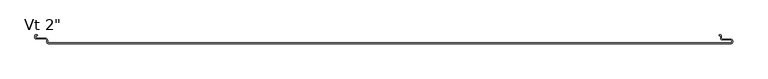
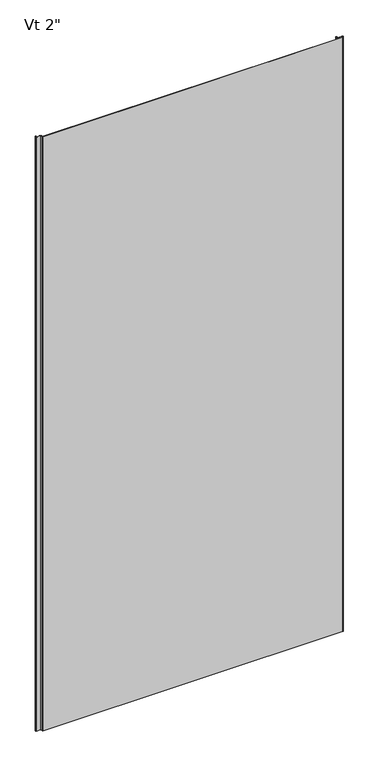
"""IFC4 building model written with IfcOpenShell, lengths in millimetres: plate geometry."""

from ifc_helpers import new_model, si_unit, frame, origin, place, context, project, spatial, polyline, circle_curve, source, transform, mapped, element, save
from ifc_brep_helpers import plane_surface, cylinder_surface, revolved_surface, advanced_brep


def plate_e84ce2d3(model_context):
    return source(origin(), model_context, "Body", "AdvancedBrep", [
        advanced_brep(
        [(-572.4123937, -47.8223811, 2400.0), (-572.4123937, -45.5308685, 2400.0), (-576.3897391, -41.5535232, 2400.0), (-591.9862514, -41.5535232, 2400.0), (-592.5741086, -40.965666, 2400.0), (-592.5741086, -37.8941346, 2400.0), (-591.9862374, -37.3062635, 2400.0), (-589.6312064, -37.3062635, 2400.0), (-589.6312064, -36.3062599, 2400.0), (-591.9862419, -36.3062599, 2400.0), (-593.5741185, -37.8941364, 2400.0), (-593.5741185, -40.9656851, 2400.0), (-591.9862419, -42.5535616, 2400.0), (-576.3898159, -42.5535616, 2400.0), (-573.4125474, -45.5308302, 2400.0), (-573.4125474, -47.822714, 2400.0), (-570.4352789, -50.7999825, 2400.0), (574.5475652, -50.8, 2400.0), (577.5248337, -47.8227315, 2400.0), (577.5248337, -46.7806329, 2400.0), (574.5475652, -43.8033644, 2400.0), (560.3591801, -43.8033644, 2400.0), (558.7713036, -42.2154878, 2400.0), (558.7713036, -37.8950697, 2400.0), (557.1304042, -36.3066023, 2400.0), (554.7857432, -36.3066023, 2400.0), (554.7857432, -37.3060472, 2400.0), (557.1628599, -37.3060472, 2400.0), (557.7713971, -37.8950842, 2400.0), (557.7713971, -42.2153166, 2400.0), (560.3590971, -44.8030166, 2400.0), (574.5482568, -44.8030166, 2400.0), (576.5262182, -46.780978, 2400.0), (576.5262182, -47.82341, 2400.0), (574.550337, -49.7992912, 2400.0), (-570.4354837, -49.7992912, 2400.0), (-572.4123937, -47.8223811, 0.0), (-570.4354837, -49.7992912, 0.0), (574.550337, -49.7992912, 0.0), (576.5262182, -47.82341, 0.0), (576.5262182, -46.780978, 0.0), (574.5482568, -44.8030166, 0.0), (560.3590971, -44.8030166, 0.0), (557.7713971, -42.2153166, 0.0), (557.7713971, -37.8950842, 0.0), (557.1628599, -37.3060472, 0.0), (554.7857432, -37.3060472, 0.0), (554.7857432, -36.3066023, 0.0), (557.1304042, -36.3066023, 0.0), (558.7713036, -37.8950697, 0.0), (558.7713036, -42.2154878, 0.0), (560.3591801, -43.8033644, 0.0), (574.5475652, -43.8033644, 0.0), (577.5248337, -46.7806329, 0.0), (577.5248337, -47.8227315, 0.0), (574.5475652, -50.8, 0.0), (-570.4352789, -50.8, 0.0), (-573.4125474, -47.822714, 0.0), (-573.4125474, -45.5308302, 0.0), (-576.3898159, -42.5535616, 0.0), (-591.9862419, -42.5535616, 0.0), (-593.5741185, -40.9656851, 0.0), (-593.5741185, -37.8941364, 0.0), (-591.9862419, -36.3062599, 0.0), (-589.6312064, -36.3062599, 0.0), (-589.6312064, -37.3062635, 0.0), (-591.9862374, -37.3062635, 0.0), (-592.5741086, -37.8941346, 0.0), (-592.5741086, -40.965666, 0.0), (-591.9862514, -41.5535232, 0.0), (-576.3897391, -41.5535232, 0.0), (-572.4123937, -45.5308685, 0.0)],
        [
            (0, 1),
            (1, 2, circle_curve(frame((-576.3897391, -45.5308685, 2400.0), z_axis=(0.0, 0.0, 1.0), x_axis=(-1.0, 0.0, 0.0)), 3.9773454)),
            (2, 3),
            (3, 4, circle_curve(frame((-591.9862514, -40.965666, 2400.0), z_axis=(0.0, 0.0, -1.0), x_axis=(-1.0, 0.0, 0.0)), 0.5878572)),
            (4, 5),
            (5, 6, circle_curve(frame((-591.9862374, -37.8941346, 2400.0), z_axis=(0.0, 0.0, -1.0), x_axis=(-1.0, 0.0, 0.0)), 0.5878711)),
            (6, 7),
            (7, 8),
            (8, 9),
            (9, 10, circle_curve(frame((-591.9862419, -37.8941364, 2400.0), z_axis=(0.0, 0.0, 1.0), x_axis=(-1.0, 0.0, 0.0)), 1.5878765)),
            (10, 11),
            (11, 12, circle_curve(frame((-591.9862419, -40.9656851, 2400.0), z_axis=(0.0, 0.0, 1.0), x_axis=(-1.0, 0.0, 0.0)), 1.5878765)),
            (12, 13),
            (13, 14, circle_curve(frame((-576.3898159, -45.5308302, 2400.0), z_axis=(0.0, 0.0, -1.0), x_axis=(-1.0, 0.0, 0.0)), 2.9772685)),
            (14, 15),
            (15, 16, circle_curve(frame((-570.4352789, -47.822714, 2400.0), z_axis=(0.0, 0.0, 1.0), x_axis=(-1.0, 0.0, 0.0)), 2.9772685)),
            (16, 17),
            (17, 18, circle_curve(frame((574.5475652, -47.8227315, 2400.0), z_axis=(0.0, 0.0, 1.0), x_axis=(-1.0, 0.0, 0.0)), 2.9772685)),
            (18, 19),
            (19, 20, circle_curve(frame((574.5475652, -46.7806329, 2400.0), z_axis=(0.0, 0.0, 1.0), x_axis=(-1.0, 0.0, 0.0)), 2.9772685)),
            (20, 21),
            (21, 22, circle_curve(frame((560.3591801, -42.2154878, 2400.0), z_axis=(0.0, 0.0, -1.0), x_axis=(-1.0, 0.0, 0.0)), 1.5878765)),
            (22, 23),
            (23, 24, circle_curve(frame((557.1819985, -37.8950697, 2400.0), z_axis=(0.0, 0.0, 1.0), x_axis=(-1.0, 0.0, 0.0)), 1.5893051)),
            (24, 25),
            (25, 26),
            (26, 27),
            (27, 28, circle_curve(frame((557.1820477, -37.8950842, 2400.0), z_axis=(0.0, 0.0, -1.0), x_axis=(-1.0, 0.0, 0.0)), 0.5893495)),
            (28, 29),
            (29, 30, circle_curve(frame((560.3590971, -42.2153166, 2400.0), z_axis=(0.0, 0.0, 1.0), x_axis=(-1.0, 0.0, 0.0)), 2.5877)),
            (30, 31),
            (31, 32, circle_curve(frame((574.5482568, -46.780978, 2400.0), z_axis=(0.0, 0.0, -1.0), x_axis=(-1.0, 0.0, 0.0)), 1.9779614)),
            (32, 33),
            (33, 34, circle_curve(frame((574.550337, -47.82341, 2400.0), z_axis=(0.0, 0.0, -1.0), x_axis=(-1.0, 0.0, 0.0)), 1.9758812)),
            (34, 35),
            (35, 0, circle_curve(frame((-570.4354837, -47.8223811, 2400.0), z_axis=(0.0, 0.0, -1.0), x_axis=(-1.0, 0.0, 0.0)), 1.9769101)),
            (36, 37, circle_curve(frame((-570.4354837, -47.8223811, 0.0), z_axis=(0.0, 0.0, 1.0), x_axis=(-1.0, 0.0, 0.0)), 1.9769101)),
            (37, 38),
            (38, 39, circle_curve(frame((574.550337, -47.82341, 0.0), z_axis=(0.0, 0.0, 1.0), x_axis=(-1.0, 0.0, 0.0)), 1.9758812)),
            (39, 40),
            (40, 41, circle_curve(frame((574.5482568, -46.780978, 0.0), z_axis=(0.0, 0.0, 1.0), x_axis=(-1.0, 0.0, 0.0)), 1.9779614)),
            (41, 42),
            (42, 43, circle_curve(frame((560.3590971, -42.2153166, 0.0), z_axis=(0.0, 0.0, -1.0), x_axis=(-1.0, 0.0, 0.0)), 2.5877)),
            (43, 44),
            (44, 45, circle_curve(frame((557.1820477, -37.8950842, 0.0), z_axis=(0.0, 0.0, 1.0), x_axis=(-1.0, 0.0, 0.0)), 0.5893495)),
            (45, 46),
            (46, 47),
            (47, 48),
            (48, 49, circle_curve(frame((557.1819985, -37.8950697, 0.0), z_axis=(0.0, 0.0, -1.0), x_axis=(-1.0, 0.0, 0.0)), 1.5893051)),
            (49, 50),
            (50, 51, circle_curve(frame((560.3591801, -42.2154878, 0.0), z_axis=(0.0, 0.0, 1.0), x_axis=(-1.0, 0.0, 0.0)), 1.5878765)),
            (51, 52),
            (52, 53, circle_curve(frame((574.5475652, -46.7806329, 0.0), z_axis=(0.0, 0.0, -1.0), x_axis=(-1.0, 0.0, 0.0)), 2.9772685)),
            (53, 54),
            (54, 55, circle_curve(frame((574.5475652, -47.8227315, 0.0), z_axis=(0.0, 0.0, -1.0), x_axis=(-1.0, 0.0, 0.0)), 2.9772685)),
            (55, 56),
            (56, 57, circle_curve(frame((-570.4352789, -47.822714, 0.0), z_axis=(0.0, 0.0, -1.0), x_axis=(-1.0, 0.0, 0.0)), 2.9772685)),
            (57, 58),
            (58, 59, circle_curve(frame((-576.3898159, -45.5308302, 0.0), z_axis=(0.0, 0.0, 1.0), x_axis=(-1.0, 0.0, 0.0)), 2.9772685)),
            (59, 60),
            (60, 61, circle_curve(frame((-591.9862419, -40.9656851, 0.0), z_axis=(0.0, 0.0, -1.0), x_axis=(-1.0, 0.0, 0.0)), 1.5878765)),
            (61, 62),
            (62, 63, circle_curve(frame((-591.9862419, -37.8941364, 0.0), z_axis=(0.0, 0.0, -1.0), x_axis=(-1.0, 0.0, 0.0)), 1.5878765)),
            (63, 64),
            (64, 65),
            (65, 66),
            (66, 67, circle_curve(frame((-591.9862374, -37.8941346, 0.0), z_axis=(0.0, 0.0, 1.0), x_axis=(-1.0, 0.0, 0.0)), 0.5878711)),
            (67, 68),
            (68, 69, circle_curve(frame((-591.9862514, -40.965666, 0.0), z_axis=(0.0, 0.0, 1.0), x_axis=(-1.0, 0.0, 0.0)), 0.5878572)),
            (69, 70),
            (70, 71, circle_curve(frame((-576.3897391, -45.5308685, 0.0), z_axis=(0.0, 0.0, -1.0), x_axis=(-1.0, 0.0, 0.0)), 3.9773454)),
            (71, 36),
            (23, 49),
            (48, 24),
            (22, 50),
            (21, 51),
            (20, 52),
            (19, 53),
            (17, 55),
            (54, 18),
            (32, 40),
            (39, 33),
            (38, 34),
            (16, 56),
            (37, 35),
            (36, 0),
            (71, 1),
            (70, 2),
            (69, 3),
            (4, 68),
            (67, 5),
            (66, 6),
            (65, 7),
            (64, 8),
            (63, 9),
            (62, 10),
            (61, 11),
            (60, 12),
            (59, 13),
            (58, 14),
            (57, 15),
            (31, 41),
            (30, 42),
            (29, 43),
            (28, 44),
            (27, 45),
            (26, 46),
            (25, 47),
        ],
        [
            plane_surface(frame((0.0, -50.8, 2400.0), z_axis=(0.0, 0.0, 1.0), x_axis=(0.0, -1.0, 0.0))),
            plane_surface(frame((0.0, -50.8, 0.0), z_axis=(0.0, 0.0, -1.0), x_axis=(0.0, -1.0, 0.0))),
            cylinder_surface(frame((557.1819985, -37.8950697, 2400.0), z_axis=(0.0, 0.0, 1.0), x_axis=(-1.0, 0.0, 0.0)), 1.5893051),
            plane_surface(frame((558.7713036, -37.8950697, 2400.0), z_axis=(1.0, 0.0, 0.0), x_axis=(0.0, 0.0, -1.0))),
            revolved_surface(polyline([(558.7713036, -42.2154878, 0.0), (558.7713036, -42.2154878, 2400.0)]), (560.3591801, -42.2154878, 2400.0), (0.0, 0.0, -1.0)),
            plane_surface(frame((560.3591801, -43.8033644, 2400.0), z_axis=(0.0, 1.0, 0.0), x_axis=(0.0, 0.0, -1.0))),
            cylinder_surface(frame((574.5475652, -46.7806329, 2400.0), z_axis=(0.0, 0.0, 1.0), x_axis=(-1.0, 0.0, 0.0)), 2.9772685),
            cylinder_surface(frame((574.5475652, -47.8227315, 2400.0), z_axis=(0.0, 0.0, 1.0), x_axis=(-1.0, 0.0, 0.0)), 2.9772685),
            plane_surface(frame((576.5262182, -47.82341, 2400.0), z_axis=(-1.0, 0.0, 0.0), x_axis=(0.0, 0.0, -1.0))),
            plane_surface(frame((577.5248337, -46.7806329, 2400.0), z_axis=(1.0, 0.0, 0.0), x_axis=(0.0, 0.0, -1.0))),
            revolved_surface(polyline([(572.5744558, -47.82341, 0.0), (572.5744558, -47.82341, 2400.0)]), (574.550337, -47.82341, 2400.0), (0.0, 0.0, -1.0)),
            plane_surface(frame((574.5475652, -50.8, 2400.0), z_axis=(0.0, -1.0, 0.0), x_axis=(0.0, 0.0, -1.0))),
            plane_surface(frame((-570.4354837, -49.7992912, 2400.0), z_axis=(0.0, 1.0, 0.0), x_axis=(0.0, 0.0, -1.0))),
            revolved_surface(polyline([(-572.4123938, -47.8223811, 0.0), (-572.4123938, -47.8223811, 2400.0)]), (-570.4354837, -47.8223811, 2400.0), (0.0, 0.0, -1.0)),
            plane_surface(frame((-572.4123937, -45.5308685, 2400.0), z_axis=(1.0, 0.0, 0.0), x_axis=(0.0, 0.0, -1.0))),
            cylinder_surface(frame((-576.3897391, -45.5308685, 2400.0), z_axis=(0.0, 0.0, 1.0), x_axis=(-1.0, 0.0, 0.0)), 3.9773454),
            plane_surface(frame((-591.9862514, -41.5535232, 2400.0), z_axis=(0.0, 1.0, 0.0), x_axis=(0.0, 0.0, -1.0))),
            plane_surface(frame((-592.5741086, -37.8941346, 2400.0), z_axis=(1.0, 0.0, 0.0), x_axis=(0.0, 0.0, -1.0))),
            revolved_surface(polyline([(-592.5741085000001, -37.8941346, 0.0), (-592.5741085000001, -37.8941346, 2400.0)]), (-591.9862374, -37.8941346, 2400.0), (0.0, 0.0, -1.0)),
            plane_surface(frame((-589.6312064, -37.3062635, 2400.0), z_axis=(0.0, -1.0, 0.0), x_axis=(0.0, 0.0, -1.0))),
            plane_surface(frame((-589.6312064, -36.3062599, 2400.0), z_axis=(1.0, 0.0, 0.0), x_axis=(0.0, 0.0, -1.0))),
            plane_surface(frame((-591.9862419, -36.3062599, 2400.0), z_axis=(0.0, 1.0, 0.0), x_axis=(0.0, 0.0, -1.0))),
            cylinder_surface(frame((-591.9862419, -37.8941364, 2400.0), z_axis=(0.0, 0.0, 1.0), x_axis=(-1.0, 0.0, 0.0)), 1.5878765),
            plane_surface(frame((-593.5741185, -40.9656851, 2400.0), z_axis=(-1.0, 0.0, 0.0), x_axis=(0.0, 0.0, -1.0))),
            cylinder_surface(frame((-591.9862419, -40.9656851, 2400.0), z_axis=(0.0, 0.0, 1.0), x_axis=(-1.0, 0.0, 0.0)), 1.5878765),
            plane_surface(frame((-576.3898159, -42.5535616, 2400.0), z_axis=(0.0, -1.0, 0.0), x_axis=(0.0, 0.0, -1.0))),
            revolved_surface(polyline([(-579.3670844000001, -45.5308302, 0.0), (-579.3670844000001, -45.5308302, 2400.0)]), (-576.3898159, -45.5308302, 2400.0), (0.0, 0.0, -1.0)),
            plane_surface(frame((-573.4125474, -47.822714, 2400.0), z_axis=(-1.0, 0.0, 0.0), x_axis=(0.0, 0.0, -1.0))),
            cylinder_surface(frame((-570.4352789, -47.822714, 2400.0), z_axis=(0.0, 0.0, 1.0), x_axis=(-1.0, 0.0, 0.0)), 2.9772685),
            revolved_surface(polyline([(-592.5741086, -40.965666, 0.0), (-592.5741086, -40.965666, 2400.0)]), (-591.9862514, -40.965666, 2400.0), (0.0, 0.0, -1.0)),
            revolved_surface(polyline([(572.5702954, -46.780978, 0.0), (572.5702954, -46.780978, 2400.0)]), (574.5482568, -46.780978, 2400.0), (0.0, 0.0, -1.0)),
            plane_surface(frame((574.5482568, -44.8030166, 2400.0), z_axis=(0.0, -1.0, 0.0), x_axis=(0.0, 0.0, -1.0))),
            cylinder_surface(frame((560.3590971, -42.2153166, 2400.0), z_axis=(0.0, 0.0, 1.0), x_axis=(-1.0, 0.0, 0.0)), 2.5877),
            plane_surface(frame((557.7713971, -42.2153166, 2400.0), z_axis=(-1.0, 0.0, 0.0), x_axis=(0.0, 0.0, -1.0))),
            revolved_surface(polyline([(556.5926982, -37.8950842, 0.0), (556.5926982, -37.8950842, 2400.0)]), (557.1820477, -37.8950842, 2400.0), (0.0, 0.0, -1.0)),
            plane_surface(frame((557.1628599, -37.3060472, 2400.0), z_axis=(0.0, -1.0, 0.0), x_axis=(0.0, 0.0, -1.0))),
            plane_surface(frame((554.7857432, -37.3060472, 2400.0), z_axis=(-1.0, 0.0, 0.0), x_axis=(0.0, 0.0, -1.0))),
            plane_surface(frame((554.7857432, -36.3066023, 2400.0), z_axis=(0.0, 1.0, 0.0), x_axis=(0.0, 0.0, -1.0))),
        ],
        [
            (0, [[1, 2, 3, 4, 5, 6, 7, 8, 9, 10, 11, 12, 13, 14, 15, 16, 17, 18, 19, 20, 21, 22, 23, 24, 25, 26, 27, 28, 29, 30, 31, 32, 33, 34, 35, 36]]),
            (1, [[37, 38, 39, 40, 41, 42, 43, 44, 45, 46, 47, 48, 49, 50, 51, 52, 53, 54, 55, 56, 57, 58, 59, 60, 61, 62, 63, 64, 65, 66, 67, 68, 69, 70, 71, 72]]),
            (2, [[73, -49, 74, -24]]),
            (3, [[75, -50, -73, -23]]),
            (4, [[76, -51, -75, -22]]),
            (5, [[77, -52, -76, -21]]),
            (6, [[78, -53, -77, -20]]),
            (7, [[79, -55, 80, -18]]),
            (8, [[81, -40, 82, -33]]),
            (9, [[-80, -54, -78, -19]]),
            (10, [[-82, -39, 83, -34]]),
            (11, [[84, -56, -79, -17]]),
            (12, [[-83, -38, 85, -35]]),
            (13, [[-85, -37, 86, -36]]),
            (14, [[-86, -72, 87, -1]]),
            (15, [[-87, -71, 88, -2]]),
            (16, [[-88, -70, 89, -3]]),
            (17, [[90, -68, 91, -5]]),
            (18, [[-91, -67, 92, -6]]),
            (19, [[-92, -66, 93, -7]]),
            (20, [[-93, -65, 94, -8]]),
            (21, [[-94, -64, 95, -9]]),
            (22, [[-95, -63, 96, -10]]),
            (23, [[-96, -62, 97, -11]]),
            (24, [[-97, -61, 98, -12]]),
            (25, [[-98, -60, 99, -13]]),
            (26, [[-99, -59, 100, -14]]),
            (27, [[-100, -58, 101, -15]]),
            (28, [[-101, -57, -84, -16]]),
            (29, [[-89, -69, -90, -4]]),
            (30, [[102, -41, -81, -32]]),
            (31, [[103, -42, -102, -31]]),
            (32, [[104, -43, -103, -30]]),
            (33, [[105, -44, -104, -29]]),
            (34, [[106, -45, -105, -28]]),
            (35, [[107, -46, -106, -27]]),
            (36, [[108, -47, -107, -26]]),
            (37, [[-74, -48, -108, -25]]),
        ],
    ),
    ])


if __name__ == "__main__":
    model = new_model("IFC4")
    model_context = context("Model", 3, world=origin())
    ifc_project = project(units=[si_unit("LENGTHUNIT", "METRE", prefix="MILLI")], contexts=[model_context])
    site = spatial("IfcSite", under=ifc_project)
    building = spatial("IfcBuilding", under=site)
    placement = place(None, origin())
    plate_shape = plate_e84ce2d3(model_context)
    element("IfcPlate", 1, ObjectType="KIP-SLI-FLI-R19-CP-Vt-FL_SL : Vt 2\"", at=placement, inside=building, context=model_context, shape_type="MappedRepresentation", body=[
        mapped(plate_shape, transform((0.0, 0.0, 0.0), x_axis=(1.0, 0.0, 0.0), y_axis=(0.0, 1.0, 0.0), z_axis=(0.0, 0.0, 1.0))),
    ])
    save(model, "model.ifc")
